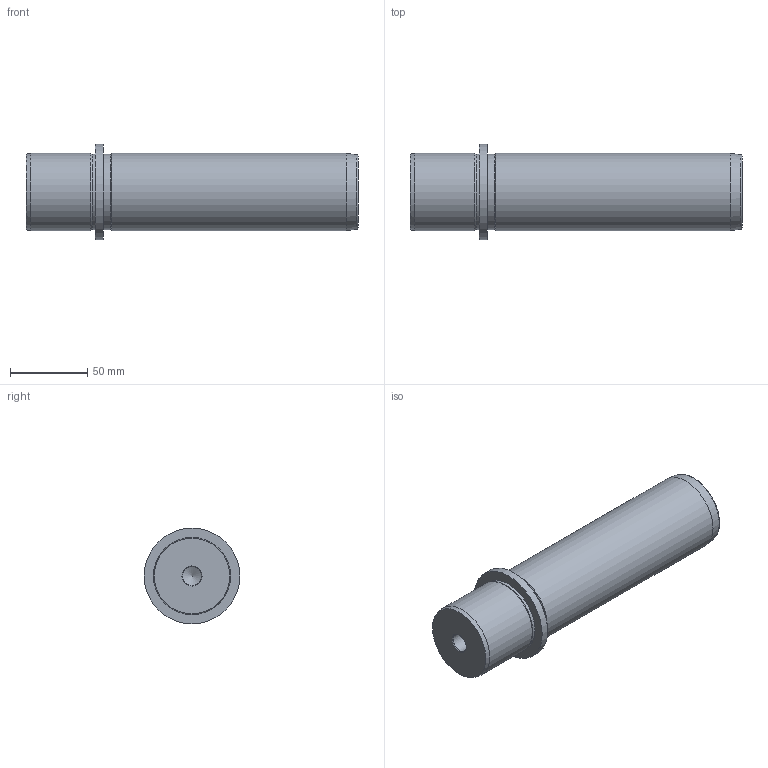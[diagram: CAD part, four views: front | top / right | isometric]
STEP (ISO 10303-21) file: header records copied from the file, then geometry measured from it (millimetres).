
FILE_DESCRIPTION(/* description */ ('Impex Ready, www.impex-ready.pl'),/* implementation_level */ '2;1');
FILE_NAME(/* name */ 'C:\Users\VIKKY\Nextcloud\SM\projekt 10 - części na stronę internetową\Pliki_3D_new\292 Słupy CE\292_CE_STEP\CE50170.ipt.step',/* time_stamp */ '2021-12-17T13:43:35+01:00',/* author */ ('SM'),/* organization */ (''),/* preprocessor_version */ 'ST-DEVELOPER v18.1',/* originating_system */ 'Autodesk Inventor 2021',/* authorisation */ '');
FILE_SCHEMA (('AUTOMOTIVE_DESIGN { 1 0 10303 214 3 1 1 }'));
Length unit declared in the file: millimetre
Products named in the file (1): CE50170
Bounding box: 215 x 62 x 62 mm (x, y, z)
Volume: 423008.8 mm3; surface area: 40866.7 mm2
Topology: 1 solids, 1 shells, 17 faces, 31 edges, 18 vertices
Faces by surface type: cone 6, cylinder 6, plane 4, torus 1
Full cylindrical faces by diameter (mm): 12 x1, 49 x2, 50 x2, 62 x1
Entity records: 508 total; most frequent: DIRECTION 84, CARTESIAN_POINT 66, ORIENTED_EDGE 60, AXIS2_PLACEMENT_3D 36, EDGE_CURVE 30, EDGE_LOOP 20, CIRCLE 18, VERTEX_POINT 18
